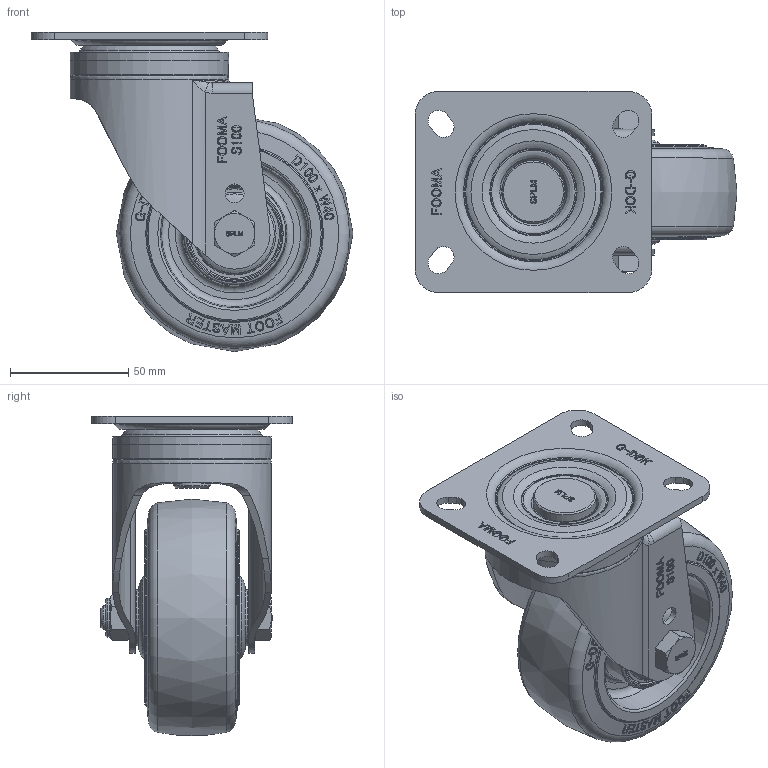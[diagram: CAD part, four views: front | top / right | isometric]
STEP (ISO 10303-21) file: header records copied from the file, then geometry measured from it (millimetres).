
FILE_DESCRIPTION(/* description */ (''),/* implementation_level */ '2;1');
FILE_NAME(/* name */ '\\192.168.10.38\지덕공유\1.기술연구소\2.연구개발 진행중\98.스테인레스캐스터 개발건_2023.10.26\제품설계\3D\홈페이지용\SPLM-100-ASF-HRD-PEU.stp',/* time_stamp */ '2025-02-20T14:07:04+09:00',/* author */ ('admin'),/* organization */ ('지덕산업'),/* preprocessor_version */ 'ST-DEVELOPER v18.1',/* originating_system */ 'Autodesk Inventor 2021',/* authorisation */ '');
FILE_SCHEMA (('CONFIG_CONTROL_DESIGN'));
Products named in the file (1): SPLM-100-ASF-HRD-PEU
Bounding box: 136 x 85 x 134.83 mm (x, y, z)
Volume: 369471.8 mm3; surface area: 80457.6 mm2
Topology: 1 solids, 1 shells, 1285 faces, 3452 edges, 2280 vertices
Faces by surface type: plane 586, bspline 456, cylinder 100, cone 95, torus 48
Full cylindrical faces by diameter (mm): 8 x2, 10 x1, 11 x1, 16 x2, 16.5 x1, 26.6 x1, 30 x1, 40.105 x1, 40.971 x1, 54 x1, 67 x1
Entity records: 43897 total; most frequent: CARTESIAN_POINT 16014, ORIENTED_EDGE 6896, DIRECTION 4018, EDGE_CURVE 3448, VERTEX_POINT 2280, LINE 1608, VECTOR 1608, EDGE_LOOP 1414
